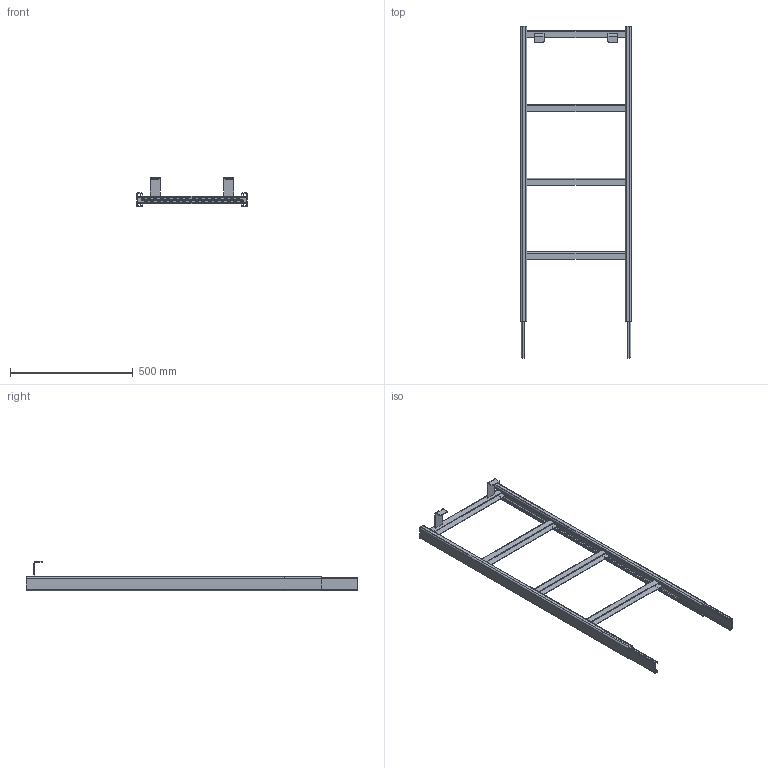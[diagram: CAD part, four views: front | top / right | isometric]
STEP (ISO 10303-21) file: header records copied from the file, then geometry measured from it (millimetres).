
FILE_DESCRIPTION((''),'2;1');
FILE_NAME('105427-600','2018-11-27T',('stat'),('HUBER SE'),'PRO/ENGINEER BY PARAMETRIC TECHNOLOGY CORPORATION, 2017170','PRO/ENGINEER BY PARAMETRIC TECHNOLOGY CORPORATION, 2017170','');
FILE_SCHEMA(('AUTOMOTIVE_DESIGN { 1 0 10303 214 1 1 1 1 }'));
Length unit declared in the file: millimetre
Products named in the file (1): 105427-600
Bounding box: 450 x 1350 x 121.5 mm (x, y, z)
Volume: 1091829 mm3; surface area: 932571.4 mm2
Topology: 6 solids, 6 shells, 1396 faces, 3120 edges, 1868 vertices
Faces by surface type: torus 512, cone 512, plane 312, cylinder 60
Entity records: 40243 total; most frequent: DIRECTION 8105, CARTESIAN_POINT 6395, ORIENTED_EDGE 6240, AXIS2_PLACEMENT_3D 3581, EDGE_CURVE 3120, CIRCLE 2180, VERTEX_POINT 1868, EDGE_LOOP 1784
